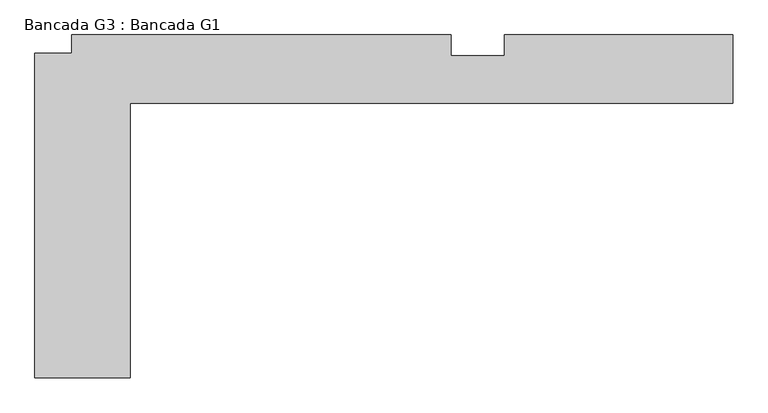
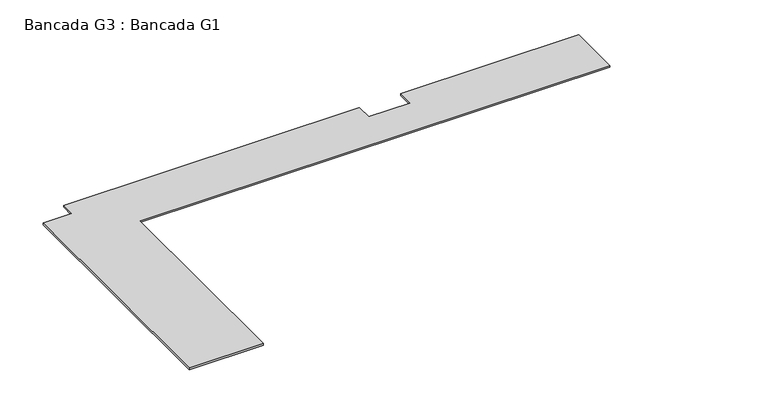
"""IFC4 building model written with IfcOpenShell, lengths in millimetres: furniture geometry, Bancada G3 : Bancada G1."""

from ifc_helpers import new_model, si_unit, frame, origin, place, context, project, spatial, polyline, outline, extrude, source, transform, mapped, element, save


def bancada_g3_bancada_g1_d875864f(model_context):
    return source(origin(), model_context, "Body", "SweptSolid", [
        extrude(outline(polyline([(-4992.3834094, -3077.0637549), (-9742.1579181, -3077.0637549), (-9742.1579181, -5237.0637549), (-10492.3834094, -5237.0637549), (-10492.3834094, -2682.0637549), (-10202.3834094, -2682.0637549), (-10202.3834094, -2537.0637549), (-7212.3834094, -2537.0637549), (-7212.3834094, -2702.0637549), (-6792.3834094, -2702.0637549), (-6792.3834094, -2537.0637549), (-4992.3834094, -2537.0637549), (-4992.3834094, -3077.0637549)])), frame((0.0, 0.0, 130.0), z_axis=(0.0, 0.0, 1.0), x_axis=(1.0, 0.0, 0.0)), (0.0, 0.0, 1.0), 20.0),
    ])


if __name__ == "__main__":
    model = new_model("IFC4")
    model_context = context("Model", 3, world=origin())
    ifc_project = project(units=[si_unit("LENGTHUNIT", "METRE", prefix="MILLI")], contexts=[model_context])
    site = spatial("IfcSite", under=ifc_project)
    building = spatial("IfcBuilding", under=site)
    placement = place(None, origin())
    bancada_g3_bancada_g1_shape = bancada_g3_bancada_g1_d875864f(model_context)
    element("IfcFurniture", 1, ObjectType="Bancada G3 : Bancada G1", at=placement, inside=building, context=model_context, shape_type="MappedRepresentation", body=[
        mapped(bancada_g3_bancada_g1_shape, transform((0.0, 0.0, 0.0), x_axis=(1.0, 0.0, 0.0), y_axis=(0.0, 1.0, 0.0), z_axis=(0.0, 0.0, 1.0))),
    ])
    save(model, "model.ifc")
